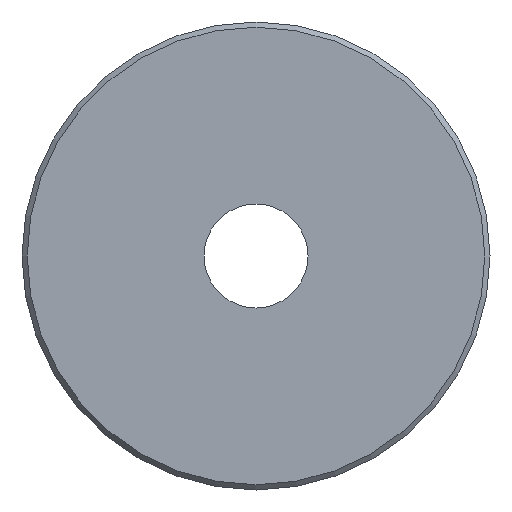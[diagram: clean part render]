
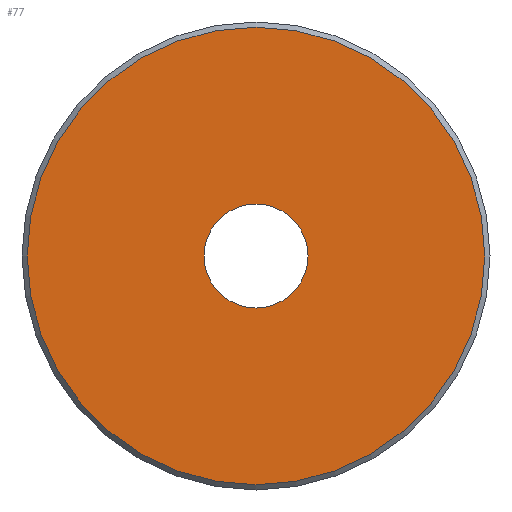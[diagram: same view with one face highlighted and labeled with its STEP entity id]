
A CAD part, front view. The second image highlights one B-rep face of the part: STEP entity #77.
In plain terms, the highlighted planar face has unit normal (0, -1, 0).
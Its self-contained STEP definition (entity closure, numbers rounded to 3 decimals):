
#21=FACE_BOUND('',#36,.T.);
#27=FACE_OUTER_BOUND('',#35,.T.);
#35=EDGE_LOOP('',(#65));
#36=EDGE_LOOP('',(#66));
#45=CIRCLE('',#87,20.);
#46=CIRCLE('',#89,88.);
#51=VERTEX_POINT('',#128);
#52=VERTEX_POINT('',#131);
#57=EDGE_CURVE('',#51,#51,#45,.T.);
#58=EDGE_CURVE('',#52,#52,#46,.T.);
#65=ORIENTED_EDGE('',*,*,#58,.F.);
#66=ORIENTED_EDGE('',*,*,#57,.T.);
#74=PLANE('',#88);
#77=ADVANCED_FACE('',(#27,#21),#74,.T.);
#87=AXIS2_PLACEMENT_3D('',#129,#105,#106);
#88=AXIS2_PLACEMENT_3D('',#130,#107,#108);
#89=AXIS2_PLACEMENT_3D('',#132,#109,#110);
#105=DIRECTION('center_axis',(0.,1.,0.));
#106=DIRECTION('ref_axis',(1.,0.,0.));
#107=DIRECTION('center_axis',(0.,-1.,0.));
#108=DIRECTION('ref_axis',(0.,0.,-1.));
#109=DIRECTION('center_axis',(0.,1.,0.));
#110=DIRECTION('ref_axis',(1.,0.,0.));
#128=CARTESIAN_POINT('',(75.724,3.177,0.));
#129=CARTESIAN_POINT('Origin',(95.724,3.177,0.));
#130=CARTESIAN_POINT('Origin',(7.724,3.177,0.));
#131=CARTESIAN_POINT('',(7.724,3.177,0.));
#132=CARTESIAN_POINT('Origin',(95.724,3.177,0.));
